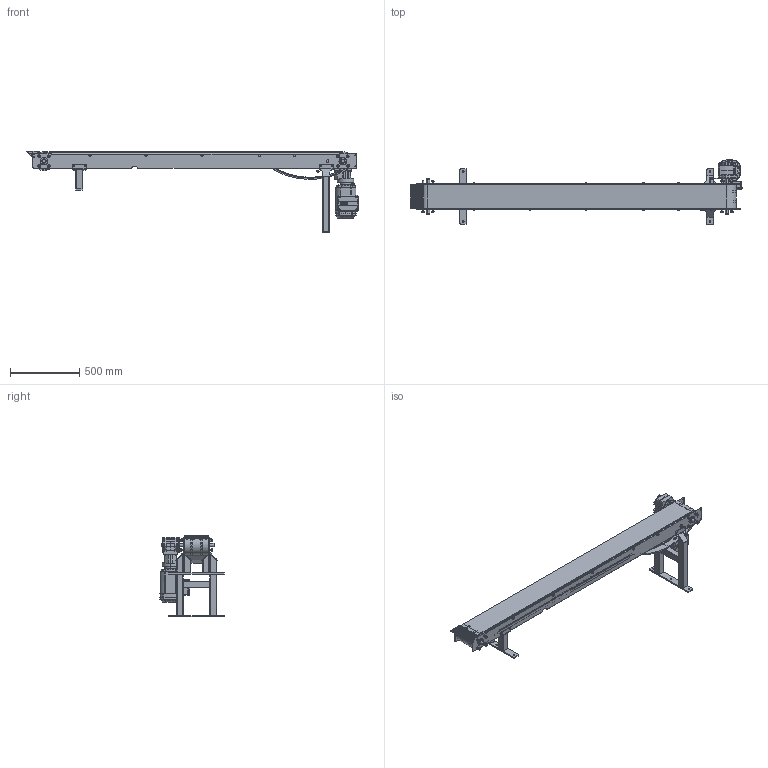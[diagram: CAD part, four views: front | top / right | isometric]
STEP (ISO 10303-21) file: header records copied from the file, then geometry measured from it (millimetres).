
FILE_DESCRIPTION(/* description */ (''),/* implementation_level */ '2;1');
FILE_NAME(/* name */ 'beltconveyor_a016_w170_l2300.stp',/* time_stamp */ '2024-12-15T15:31:03+08:00',/* author */ (''),/* organization */ (''),/* preprocessor_version */ 'ST-DEVELOPER v16.7',/* originating_system */ 'SIEMENS PLM Software NX 12.0',/* authorisation */ '');
FILE_SCHEMA (('AUTOMOTIVE_DESIGN { 1 0 10303 214 3 1 1 1 }'));
Products named in the file (67): SIDE PLATE 2; SIDE PLATE 1; M12 STUD; CONVEYOR GUIDE 2; TUBE 50 X 50 X 148; TUBE 50 X 50 X 193; FLAT BAR W60-T10; BRACKET SUPPORT; TUBE 50 X 50 X 408; HEX. HEAD BOLT M10X20; TORQUE ARM SPACER; HEX. HEAD BOLT M8X20; FH.HEX SOCKET SCREW M4 X 6; BRACKET TRANSFER PLATE; WA37DRE80M44; 16770 TRANSFER PLATE_3; 16770 TRANSFER PLATE_21; DRIVE SHAFT; 16770 TRANSFER PLATE_22; 16770 TRANSFER PLATE_7; 16770 TRANSFER PLATE_6; DRIVEN SHAFT; GUIDE RAIL 2; WA30-TORQUE ARM; GUIDE RAIL 2-OPPOSITE; 16770 TRANSFER PLATE_18; KEY 8 X 7 X 28; GUIDE RAIL; 16770 TRANSFER PLATE_10; 16770 TRANSFER PLATE_19; 16770 TRANSFER PLATE_15; 16770 TRANSFER PLATE_14; HEX. HEAD BOLT M8X25; 16770 TRANSFER PLATE_2; 16770 TRANSFER PLATE_20; 16770 TRANSFER PLATE_16; 16770 TRANSFER PLATE_11; 16770 TRANSFER PLATE_24; 16770 TRANSFER PLATE; COLLAR CLAMP_1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
Assembly tree (239 placements, depth 4):
  beltconveyor_a016_w170_l2300
    LOCKWASHER M10_1  x13
    WASHER 8_1  x10
    16770 TRANSFER PLATE_23  x4
    HEX. NUT M10  x12
    16770 TRANSFER PLATE_8  x4
    16770 TRANSFER PLATE_27  x4
    COLLAR CLAMP  x4
    16770 TRANSFER PLATE_1  x4
    16770 TRANSFER PLATE_25  x4
    16770 TRANSFER PLATE_26  x4
    16770 TRANSFER PLATE_12  x4
    WASHER 10_1  x14
    16770 TRANSFER PLATE_17  x4
    BELT-0.75 IN PITCH
    SPACER 15 X 177  x5
    16770 TRANSFER PLATE_5  x4
    SPACER 20 X 177
    16770 TRANSFER PLATE_4  x4
    SPROCKET 1  x4
    16770 TRANSFER PLATE_9  x4
    16770 TRANSFER PLATE_13  x4
    COLLAR CLAMP_1  x4
    16770 TRANSFER PLATE  x4
    16770 TRANSFER PLATE_24  x4
    16770 TRANSFER PLATE_11  x4
    16770 TRANSFER PLATE_16  x4
    16770 TRANSFER PLATE_20  x4
    16770 TRANSFER PLATE_2  x4
    HEX. HEAD BOLT M8X25  x9
    16770 TRANSFER PLATE_14  x4
    16770 TRANSFER PLATE_15  x4
    16770 TRANSFER PLATE_19  x4
    16770 TRANSFER PLATE_10  x4
    GUIDE RAIL  x2
    KEY 8 X 7 X 28  x2
    16770 TRANSFER PLATE_18  x4
    CONVEYOR SUPPORT-2-WELDT
      TUBE 50 X 50 X 408  x2
      BRACKET SUPPORT  x2
      FLAT BAR W60-T10
      TUBE 50 X 50 X 193
    GUIDE RAIL 2-OPPOSITE
    WA30-TORQUE ARM
    GUIDE RAIL 2
    DRIVEN SHAFT
    16770 TRANSFER PLATE_6  x4
    CONVEYOR SUPPORT-1-WELDT
      TUBE 50 X 50 X 148  x2
      BRACKET SUPPORT  x2
      FLAT BAR W60-T10
    16770 TRANSFER PLATE_7  x4
    16770 TRANSFER PLATE_22  x4
    DRIVE SHAFT
    16770 TRANSFER PLATE_21  x4
    16770 TRANSFER PLATE_3  x4
    WA37DRE80M44
    INFEED CONVEYOR WELDMENT
      SIDE PLATE 1 WELDMENT
        M12 STUD  x8
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Bounding box: 2400.03 x 466.28 x 592.57 mm (x, y, z)
Volume: 21095500.2 mm3; surface area: 5568432.9 mm2
Topology: 270 solids, 275 shells, 4566 faces, 11041 edges, 7133 vertices
Faces by surface type: plane 1905, cylinder 1649, torus 436, extrusion 369, cone 164, bspline 40, sphere 3
Entity records: 99694 total; most frequent: CARTESIAN_POINT 23563, ORIENTED_EDGE 12868, DIRECTION 12142, EDGE_CURVE 6434, AXIS2_PLACEMENT_3D 4321, VERTEX_POINT 4203, VECTOR 3500, LINE 3131
